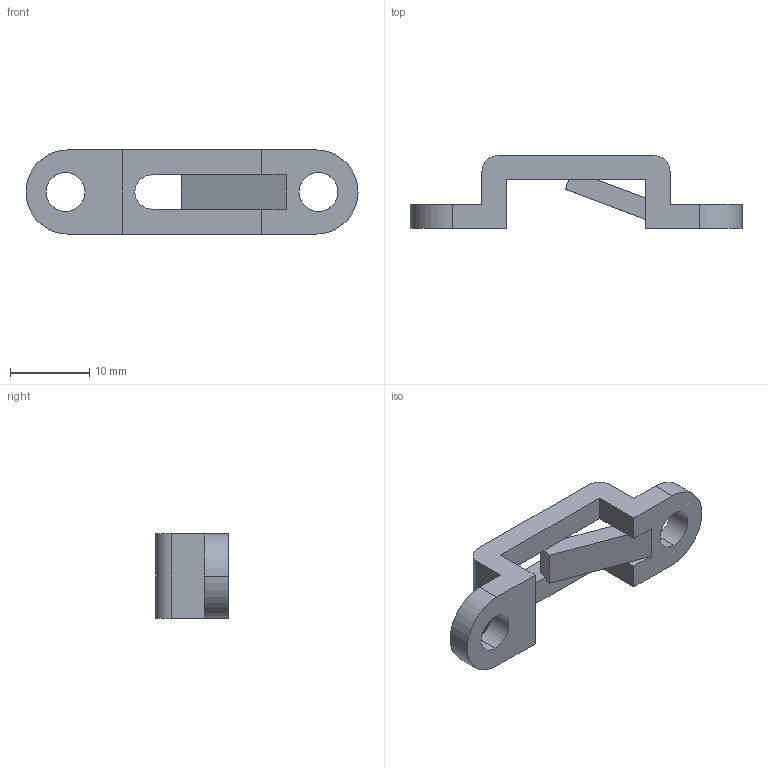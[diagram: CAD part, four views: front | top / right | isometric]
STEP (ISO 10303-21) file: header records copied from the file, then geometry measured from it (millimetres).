
FILE_DESCRIPTION (( 'STEP AP214' ), '1' );
FILE_NAME ('4034_V01_REFERENCE_LOCKING_SINGLE_CLIP.STEP', '2025-03-31T13:24:37', ( '' ), ( '' ), 'SwSTEP 2.0', 'SolidWorks 2025', '' );
FILE_SCHEMA (( 'AUTOMOTIVE_DESIGN' ));
Length unit declared in the file: inch
Products named in the file (1): 4034_V01_REFERENCE_LOCKING_SINGLE_CLIP
Bounding box: 42.01 x 9.22 x 10.67 mm (x, y, z)
Volume: 1384.7 mm3; surface area: 1583.3 mm2
Topology: 1 solids, 1 shells, 36 faces, 110 edges, 70 vertices
Faces by surface type: plane 24, cylinder 12
Entity records: 1265 total; most frequent: ORIENTED_EDGE 220, CARTESIAN_POINT 217, DIRECTION 208, EDGE_CURVE 110, LINE 86, VECTOR 86, VERTEX_POINT 70, AXIS2_PLACEMENT_3D 61
